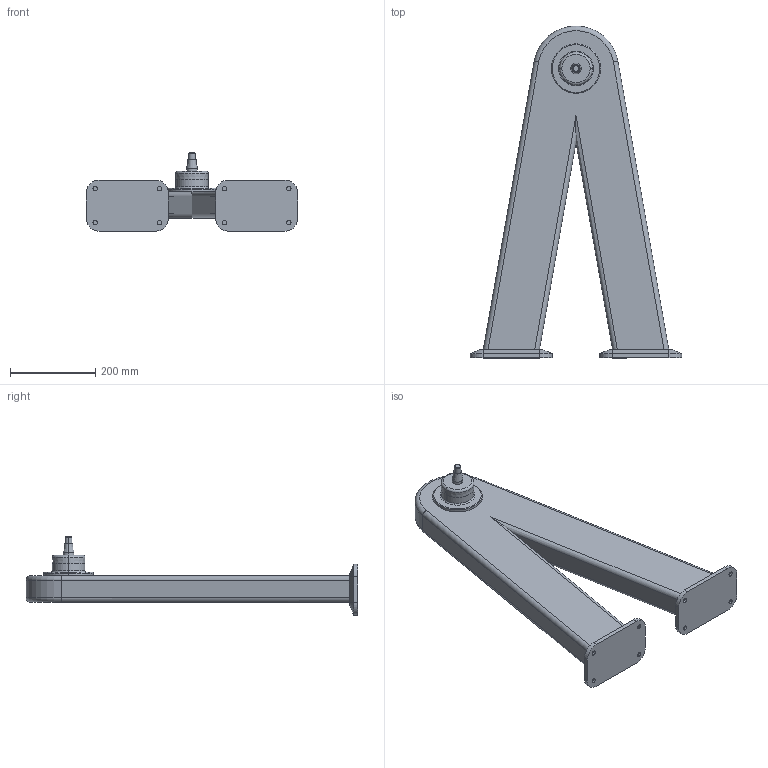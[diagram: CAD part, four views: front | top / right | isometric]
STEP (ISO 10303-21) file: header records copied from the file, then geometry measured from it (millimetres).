
FILE_DESCRIPTION (( 'STEP AP214' ), '1' );
FILE_NAME ('WP850_H680.STEP', '2014-09-08T13:03:29', ( '' ), ( '' ), 'SwSTEP 2.0', 'SolidWorks 2014', '' );
FILE_SCHEMA (( 'AUTOMOTIVE_DESIGN' ));
Length unit declared in the file: millimetre
Products named in the file (1): WP850_H680
Bounding box: 496.83 x 780 x 183.98 mm (x, y, z)
Volume: 12539047.1 mm3; surface area: 612933.6 mm2
Topology: 1 solids, 1 shells, 101 faces, 221 edges, 136 vertices
Faces by surface type: cylinder 41, plane 38, cone 14, torus 8
Entity records: 2795 total; most frequent: DIRECTION 513, CARTESIAN_POINT 489, ORIENTED_EDGE 442, EDGE_CURVE 221, AXIS2_PLACEMENT_3D 200, VERTEX_POINT 136, EDGE_LOOP 115, LINE 113
